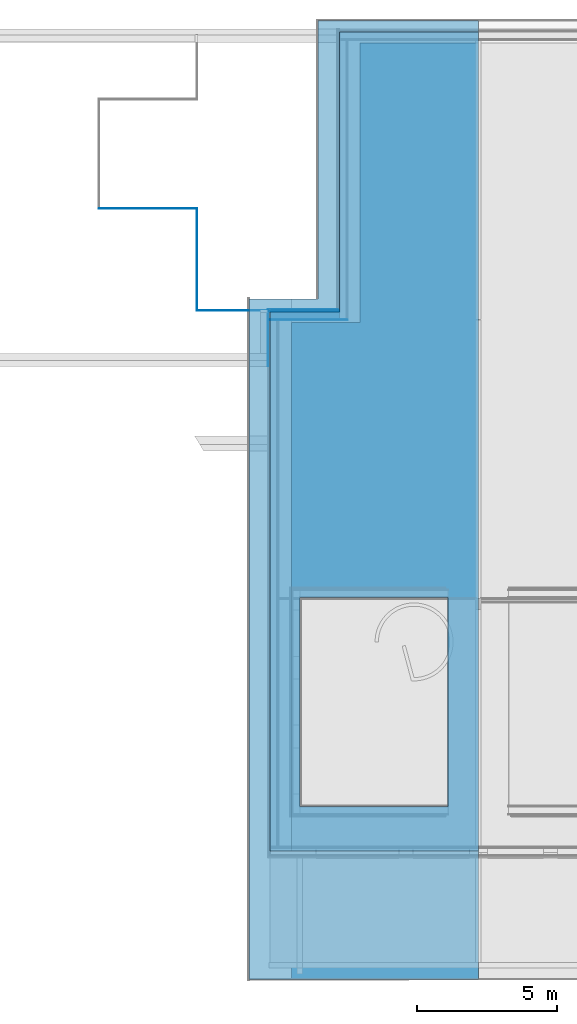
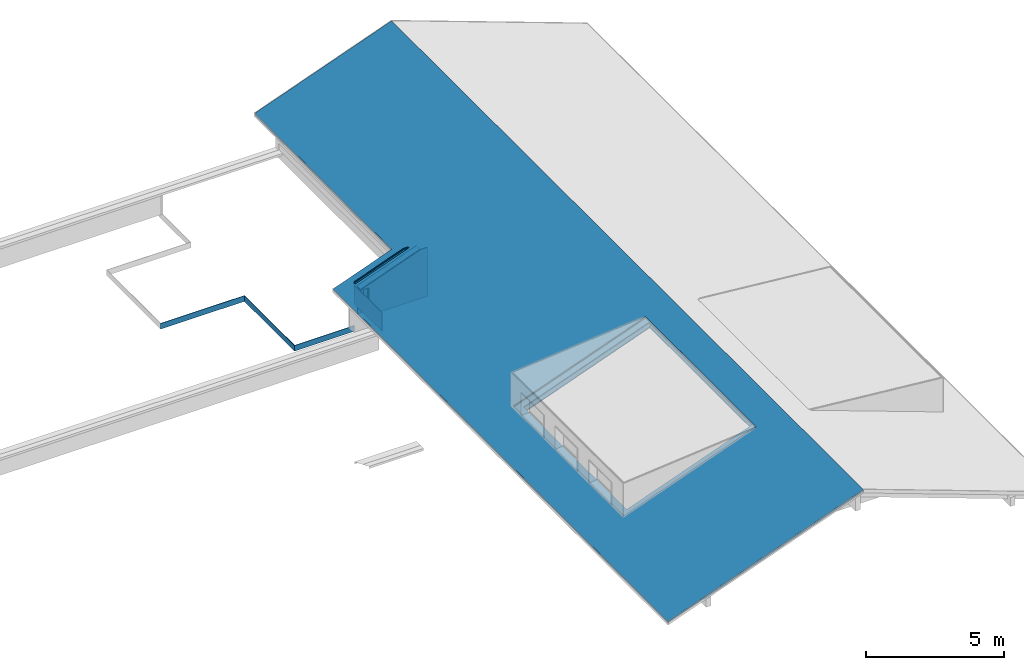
# One storey, part 6 of 12: 17 building element parts, 3 discrete accessories, 5 elements without a shape of their own.
"""IFC4 building model written with IfcOpenShell, lengths in millimetres."""

import ifcopenshell
import ifcopenshell.guid

model = None  # the IFC model being written
_history = None  # IfcOwnerHistory: only IFC2X3 demands one
_inside = {}  # id of a spatial element -> (the spatial element, [elements in it])
_under = {}  # id of a project, library or spatial element -> (it, [spatial elements below it])
_declared = {}  # id of a project -> (the project, [libraries it declares])
_typed = {}  # id of a type object -> (the type object, [elements of that type])
_made_of = {}  # id of a material, layer set ... -> (it, [elements and type objects made of it])


def new_model(schema):
    """Start an empty IFC model of exactly this schema.

    Asked for "IFC4X3", IfcOpenShell would pick the latest addendum, in which some entities
    have other attributes; the version numbers below select the first issue.
    IFC2X3 requires an IfcOwnerHistory on every rooted entity: one is made here for all.
    """
    global model, _history
    if schema == "IFC4X3":
        model = ifcopenshell.file(schema_version=(4, 3, 0, 0))
    else:
        model = ifcopenshell.file(schema=schema)
    _inside.clear()
    _under.clear()
    _declared.clear()
    _typed.clear()
    _made_of.clear()
    _history = None
    if model.schema == "IFC2X3":
        org = make("IfcOrganization", Name="unknown")
        user = make(
            "IfcPersonAndOrganization",
            ThePerson=make("IfcPerson", FamilyName="unknown"),
            TheOrganization=org,
        )
        app = make(
            "IfcApplication",
            ApplicationDeveloper=org,
            Version="unknown",
            ApplicationFullName="unknown",
            ApplicationIdentifier="unknown",
        )
        _history = make(
            "IfcOwnerHistory",
            OwningUser=user,
            OwningApplication=app,
            ChangeAction="ADDED",
            CreationDate=0,
        )
    return model


def make(cls, **values):
    """One entity of the class cls with the attributes given. An attribute that is None is left unset."""
    return model.create_entity(
        cls, **{name: value for name, value in values.items() if value is not None}
    )


def entity(cls, *values):
    """Any entity or typed value of the class cls, its attributes in the order of the schema. None: left unset."""
    e = model.create_entity(cls)
    for i, value in enumerate(values):
        if value is not None:
            e[i] = value
    return e


def rooted(cls, **values):
    """An entity with a GlobalId (a new one), such as an element, a storey or a relation."""
    return make(cls, GlobalId=ifcopenshell.guid.new(), OwnerHistory=_history, **values)


def si_unit(unit_type, name, prefix=None):
    """IfcSIUnit, for example si_unit("LENGTHUNIT", "METRE", prefix="MILLI")."""
    return make("IfcSIUnit", UnitType=unit_type, Prefix=prefix, Name=name)


def converted_unit(unit_type, name, factor, base, dimensions=None, offset=None):
    """IfcConversionBasedUnit, such as the inch: factor (a typed value) times the base unit."""
    return make(
        "IfcConversionBasedUnit"
        if offset is None
        else "IfcConversionBasedUnitWithOffset",
        ConversionOffset=offset,
        Dimensions=None
        if dimensions is None
        else entity("IfcDimensionalExponents", *dimensions),
        UnitType=unit_type,
        Name=name,
        ConversionFactor=make(
            "IfcMeasureWithUnit", ValueComponent=factor, UnitComponent=base
        ),
    )


def derived_unit(unit_type, elements):
    """IfcDerivedUnit: a product of units, each with its exponent."""
    return make(
        "IfcDerivedUnit",
        Elements=[
            make("IfcDerivedUnitElement", Unit=unit, Exponent=power)
            for unit, power in elements
        ],
        UnitType=unit_type,
    )


def assignment(units):
    """IfcUnitAssignment: the units of a project."""
    return None if units is None else make("IfcUnitAssignment", Units=units)


def point(xyz):
    """IfcCartesianPoint."""
    return None if xyz is None else make("IfcCartesianPoint", Coordinates=xyz)


def direction(xyz):
    """IfcDirection."""
    return None if xyz is None else make("IfcDirection", DirectionRatios=xyz)


def frame(location, z_axis=None, x_axis=None):
    """IfcAxis2Placement3D, a coordinate frame: its origin and axes. An axis left out is left unset."""
    return make(
        "IfcAxis2Placement3D",
        Location=point(location),
        Axis=direction(z_axis),
        RefDirection=direction(x_axis),
    )


def origin_with_axes():
    """The frame at (0, 0, 0) with the z axis (0, 0, 1) and the x axis (1, 0, 0) written out."""
    return frame((0.0, 0.0, 0.0), z_axis=(0.0, 0.0, 1.0), x_axis=(1.0, 0.0, 0.0))


def place(relative_to, where):
    """IfcLocalPlacement: puts the frame where relative to a parent placement (None: the world)."""
    return make(
        "IfcLocalPlacement", PlacementRelTo=relative_to, RelativePlacement=where
    )


def context(
    kind, dimensions, precision=None, world=None, true_north=None, identifier=None
):
    """IfcGeometricRepresentationContext, for example the 3D "Model" context."""
    return make(
        "IfcGeometricRepresentationContext",
        ContextIdentifier=identifier,
        ContextType=kind,
        CoordinateSpaceDimension=dimensions,
        Precision=precision,
        WorldCoordinateSystem=world,
        TrueNorth=true_north,
    )


def subcontext(parent, identifier, kind, view, scale=None):
    """IfcGeometricRepresentationSubContext, for example "Body" below "Model"."""
    return make(
        "IfcGeometricRepresentationSubContext",
        ContextIdentifier=identifier,
        ContextType=kind,
        ParentContext=parent,
        TargetScale=scale,
        TargetView=view,
    )


def project(units=None, contexts=None):
    """IfcProject with its units and contexts."""
    return rooted(
        "IfcProject",
        Name="project",
        RepresentationContexts=contexts,
        UnitsInContext=assignment(units),
    )


def spatial(cls, under=None, at=None, **own):
    """A site, building, storey or space (cls), placed at a placement, below another one or the project."""
    s = rooted(cls, ObjectPlacement=at, **own)
    if under is not None:
        _under.setdefault(under.id(), (under, []))[1].append(s)
    return s


def point_list(points):
    """IfcCartesianPointList2D or 3D."""
    cls = (
        "IfcCartesianPointList2D" if len(points[0]) == 2 else "IfcCartesianPointList3D"
    )
    return make(cls, CoordList=points)


def polygons(points, faces, closed=None, point_numbers=None):
    """IfcPolygonalFaceSet: a face is its outer loop, then its inner loops; points numbered from 1."""
    made = []
    for loops in faces:
        if len(loops) == 1:
            made.append(make("IfcIndexedPolygonalFace", CoordIndex=loops[0]))
        else:
            made.append(
                make(
                    "IfcIndexedPolygonalFaceWithVoids",
                    CoordIndex=loops[0],
                    InnerCoordIndices=loops[1:],
                )
            )
    return make(
        "IfcPolygonalFaceSet",
        Coordinates=point_list(points),
        Closed=closed,
        Faces=made,
        PnIndex=point_numbers,
    )


def shape(context_of_items, identifier, shape_type, items):
    """IfcShapeRepresentation: the items that make up one representation, for example the "Body"."""
    return make(
        "IfcShapeRepresentation",
        ContextOfItems=context_of_items,
        RepresentationIdentifier=identifier,
        RepresentationType=shape_type,
        Items=items,
    )


def material(Name=None, Category=None):
    """IfcMaterial."""
    return make("IfcMaterial", Name=Name, Category=Category)


def made_of(thing, what):
    """Note that an element or type object is made of a material, layer set ...; save() writes the relation."""
    if what is not None:
        _made_of.setdefault(what.id(), (what, []))[1].append(thing)
    return thing


def type_object(cls, material=None, **own):
    """A type object (cls), such as IfcWallType, which elements share."""
    return made_of(rooted(cls, **own), material)


def element(
    cls,
    number,
    at=None,
    inside=None,
    cuts=None,
    type_object=None,
    material=None,
    context=None,
    identifier="Body",
    shape_type=None,
    held_by="IfcProductDefinitionShape",
    body=None,
    shapes=None,
    **own,
):
    """One element of the class cls, such as IfcWall. Its Tag is "e" and its number.

    at: its placement. inside: the storey or other place that contains it. cuts: it is an
    opening in that element (IfcRelVoidsElement). A single representation is given by context,
    identifier, shape_type and body (its items); several are given by shapes. held_by: the class
    of the entity that holds the representations. save() writes the other relations.
    """
    e = rooted(cls, Tag="e%d" % number, ObjectPlacement=at, **own)
    if body is not None:
        shapes = [shape(context, identifier, shape_type, body)]
    if shapes is not None:
        e.Representation = make(held_by, Representations=shapes)
    if inside is not None:
        _inside.setdefault(inside.id(), (inside, []))[1].append(e)
    if cuts is not None:
        rooted(
            "IfcRelVoidsElement", RelatingBuildingElement=cuts, RelatedOpeningElement=e
        )
    if type_object is not None:
        _typed.setdefault(type_object.id(), (type_object, []))[1].append(e)
    return made_of(e, material)


def aggregate(whole, parts):
    """IfcRelAggregates: a whole, such as a stair, and the parts it consists of."""
    return rooted("IfcRelAggregates", RelatingObject=whole, RelatedObjects=parts)


def save(model, path):
    """Write the relations noted so far, then the file.

    IfcRelAggregates (storeys below a building ...), IfcRelContainedInSpatialStructure (elements
    in a storey), IfcRelDefinesByType, IfcRelAssociatesMaterial and IfcRelDeclares: one each for
    every whole, place, type object, material and project.
    """
    for whole, parts in _under.values():
        aggregate(whole, parts)
    for where, things in _inside.values():
        rooted(
            "IfcRelContainedInSpatialStructure",
            RelatedElements=things,
            RelatingStructure=where,
        )
    for kind, things in _typed.values():
        rooted("IfcRelDefinesByType", RelatedObjects=things, RelatingType=kind)
    for what, things in _made_of.values():
        rooted("IfcRelAssociatesMaterial", RelatedObjects=things, RelatingMaterial=what)
    for by, libraries in _declared.values():
        rooted("IfcRelDeclares", RelatingContext=by, RelatedDefinitions=libraries)
    model.write(path)


model = new_model("IFC4")

# Units and contexts
model_context = context("Model", 3, precision=0.01, world=origin_with_axes(), true_north=direction((0.0, 1.0)))
body_context = subcontext(model_context, "Body", "Model", "MODEL_VIEW")
ifc_project = project(units=[si_unit("LENGTHUNIT", "METRE", prefix="MILLI"), si_unit("AREAUNIT", "SQUARE_METRE"), si_unit("VOLUMEUNIT", "CUBIC_METRE"), converted_unit("PLANEANGLEUNIT", "DEGREE", entity("IfcPlaneAngleMeasure", 0.0174532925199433), si_unit("PLANEANGLEUNIT", "RADIAN"), dimensions=[0, 0, 0, 0, 0, 0, 0]), converted_unit("TIMEUNIT", "Year", entity("IfcTimeMeasure", 31557600.0), si_unit("TIMEUNIT", "SECOND"), dimensions=[0, 0, 1, 0, 0, 0, 0]), si_unit("MASSUNIT", "GRAM", prefix="KILO"), si_unit("THERMODYNAMICTEMPERATUREUNIT", "DEGREE_CELSIUS"), si_unit("LUMINOUSINTENSITYUNIT", "LUMEN"), si_unit("ENERGYUNIT", "JOULE", prefix="MEGA"), derived_unit("THERMALCONDUCTANCEUNIT", [(si_unit("POWERUNIT", "WATT"), 1), (si_unit("LENGTHUNIT", "METRE"), -1), (si_unit("THERMODYNAMICTEMPERATUREUNIT", "KELVIN"), -1)]), derived_unit("SPECIFICHEATCAPACITYUNIT", [(si_unit("ENERGYUNIT", "JOULE"), 1), (si_unit("MASSUNIT", "GRAM", prefix="KILO"), -1), (si_unit("THERMODYNAMICTEMPERATUREUNIT", "KELVIN"), -1)]), derived_unit("MASSDENSITYUNIT", [(si_unit("MASSUNIT", "GRAM", prefix="KILO"), 1), (si_unit("VOLUMEUNIT", "CUBIC_METRE"), -1)])], contexts=[model_context])

# Site, building, storey
site_placement = place(None, origin_with_axes())
site = spatial("IfcSite", under=ifc_project, at=site_placement, Name="Gelände", CompositionType="ELEMENT")
building_placement = place(site_placement, origin_with_axes())
building = spatial("IfcBuilding", under=site, at=building_placement, Name="Gebäude", CompositionType="ELEMENT")
storey_placement = place(building_placement, frame((0.0, 0.0, 11600.0), z_axis=(0.0, 0.0, 1.0), x_axis=(1.0, 0.0, 0.0)))
storey = spatial("IfcBuildingStorey", under=building, at=storey_placement, Name="Dachaufsicht", CompositionType="ELEMENT", Elevation=11600.0)

# Discrete accessories
ifc_material_1 = material(Name="Bewehrung")
discrete_accessory_type = type_object("IfcDiscreteAccessoryType", Name="Bewehrung 20 x 250", PredefinedType="NOTDEFINED")
discrete_accessory_1_placement = place(storey_placement, frame((15428.99744477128, 31572.59728131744, -5.198845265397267e-05), z_axis=(0.0, 0.0, 1.0), x_axis=(-1.0, 0.0, 0.0)))
element("IfcDiscreteAccessory", 1, at=discrete_accessory_1_placement, inside=storey, type_object=discrete_accessory_type, material=ifc_material_1, Name="Unterzug-029", PredefinedType="NOTDEFINED", context=body_context, shape_type="Tessellation", body=[
    polygons([(0.0, 3625.000000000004, -250.0), (19.99999999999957, 3645.000000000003, -250.0), (19.99999999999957, 20.00000000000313, -250.0), (0.0, 0.0, -250.0), (0.0, 3625.000000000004, 0.0), (19.99999999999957, 3645.000000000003, 0.0), (19.99999999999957, 20.00000000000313, 0.0), (0.0, 0.0, 0.0)], [[[1, 2, 3, 4]], [[1, 5, 6, 2]], [[2, 6, 7, 3]], [[4, 3, 7, 8]], [[5, 1, 4, 8]], [[6, 5, 8, 7]]], closed=True),
])
discrete_accessory_2_placement = place(storey_placement, frame((15428.99744477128, 27947.59728131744, -5.198845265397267e-05), z_axis=(0.0, 0.0, 1.0), x_axis=(0.0, -1.0, 0.0)))
element("IfcDiscreteAccessory", 2, at=discrete_accessory_2_placement, inside=storey, type_object=discrete_accessory_type, material=ifc_material_1, Name="Unterzug-030", PredefinedType="NOTDEFINED", context=body_context, shape_type="Tessellation", body=[
    polygons([(0.0, 2490.999999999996, -250.0), (19.99999999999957, 2490.999999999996, -250.0), (19.99999999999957, -20.00000000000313, -250.0), (0.0, 0.0, -250.0), (0.0, 2490.999999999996, 0.0), (19.99999999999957, 2490.999999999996, 0.0), (19.99999999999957, -20.00000000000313, 0.0), (0.0, 0.0, 0.0)], [[[1, 2, 3, 4]], [[1, 5, 6, 2]], [[2, 6, 7, 3]], [[4, 3, 7, 8]], [[5, 1, 4, 8]], [[6, 5, 8, 7]]], closed=True),
])
discrete_accessory_3_placement = place(storey_placement, frame((15428.99744477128, 31572.59728131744, -5.198845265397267e-05), z_axis=(0.0, 0.0, 1.0), x_axis=(0.0, 1.0, 0.0)))
element("IfcDiscreteAccessory", 3, at=discrete_accessory_3_placement, inside=storey, type_object=discrete_accessory_type, material=ifc_material_1, Name="Unterzug-029", PredefinedType="NOTDEFINED", context=body_context, shape_type="Tessellation", body=[
    polygons([(0.0, 3500.00000000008, 0.0), (-19.99999999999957, 3520.00000000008, 0.0), (-19.99999999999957, 20.00000000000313, 0.0), (0.0, 0.0, 0.0), (0.0, 3500.00000000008, -250.0), (-19.99999999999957, 3520.00000000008, -250.0), (-19.99999999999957, 20.00000000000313, -250.0), (0.0, 0.0, -250.0)], [[[1, 2, 3, 4]], [[1, 5, 6, 2]], [[2, 6, 7, 3]], [[4, 3, 7, 8]], [[5, 1, 4, 8]], [[6, 5, 8, 7]]], closed=True),
])

# Wall, building element parts
wall_type = type_object("IfcWallType", Name="Aussenwand Typ 01 318", PredefinedType="NOTDEFINED")
wall_placement = place(storey_placement, frame((17999.99744477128, 27907.59728131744, 500.0), z_axis=(0.0, 0.0, 1.0), x_axis=(1.0, 0.0, 0.0)))
wall = element("IfcWall", 4, at=wall_placement, inside=storey, type_object=wall_type, Name="Wand-014", PredefinedType="NOTDEFINED")
ifc_material_2 = material(Name="Ständer Konstruktion gedämmt")
building_element_part_1_placement = place(wall_placement, origin_with_axes())
building_element_part_1 = element("IfcBuildingElementPart", 5, at=building_element_part_1_placement, material=ifc_material_2, Name="Ständer Konstruktion gedämmt", PredefinedType="NOTDEFINED", context=body_context, shape_type="Tessellation", body=[
    polygons([(277.9999999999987, -277.9999957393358, 1235.349685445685), (0.0, -277.9999975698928, 1235.349685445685), (0.0, -18.00000154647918, 1235.349685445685), (277.9999999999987, -18.000002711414, 1235.349685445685), (277.9999999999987, -277.9999999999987, 0.0), (2487.000000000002, -277.9999999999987, 0.0), (2487.000000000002, -277.9999994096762, 2165.91752631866), (0.0, -277.9999975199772, 1260.723553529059), (0.0, -18.000001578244, 1260.723553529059), (2487.000000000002, -18.00000037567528, 2165.91752631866), (2487.000000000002, -18.00000000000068, 0.0), (277.9999999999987, -18.00000000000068, 0.0)], [[[1, 2, 3, 4]], [[2, 1, 5, 6, 7, 8]], [[2, 8, 9, 3]], [[3, 9, 10, 11, 12, 4]], [[5, 1, 4, 12]], [[12, 11, 6, 5]], [[11, 10, 7, 6]], [[9, 8, 7, 10]]], closed=True),
])
ifc_material_3 = material(Name="Grobspanplatte-OSB")
building_element_part_2_placement = place(wall_placement, origin_with_axes())
building_element_part_2 = element("IfcBuildingElementPart", 6, at=building_element_part_2_placement, material=ifc_material_3, Name="Grobspanplatte-OSB", PredefinedType="NOTDEFINED", context=body_context, shape_type="Tessellation", body=[
    polygons([(18.00000000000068, 0.0, 1235.349685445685), (0.0, 0.0, 1235.349685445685), (0.0, 1.484927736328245e-07, 1260.723553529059), (2469.000000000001, 7.861018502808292e-07, 2159.366061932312), (2469.000000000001, 0.0, 0.0), (18.00000000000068, 0.0, 0.0), (18.00000000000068, -18.000002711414, 1235.349685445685), (0.0, -18.00000154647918, 1235.349685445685), (0.0, -18.000001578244, 1260.723553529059), (2469.000000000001, -18.00000039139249, 2159.366061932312), (2469.000000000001, -18.00000000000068, 0.0), (18.00000000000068, -18.00000000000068, 0.0)], [[[1, 2, 3, 4, 5, 6]], [[2, 1, 7, 8]], [[2, 8, 9, 3]], [[3, 9, 10, 4]], [[5, 4, 10, 11]], [[12, 6, 5, 11]], [[1, 6, 12, 7]], [[7, 12, 11, 10, 9, 8]]], closed=True),
])
ifc_material_4 = material(Name="Gipsfaserplatte GFP")
building_element_part_3_placement = place(wall_placement, origin_with_axes())
building_element_part_3 = element("IfcBuildingElementPart", 7, at=building_element_part_3_placement, material=ifc_material_4, Name="Gipsfaserplatte GFP", PredefinedType="NOTDEFINED", context=body_context, shape_type="Tessellation", body=[
    polygons([(307.9999999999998, -292.9999999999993, 1235.349685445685), (0.0, -292.9999999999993, 1235.349685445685), (0.0, -292.9999999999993, 1260.723553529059), (2487.000000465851, -292.9999999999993, 2165.91752631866), (2762.0, -292.9999999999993, 2165.91752631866), (2762.0, -292.9999999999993, 0.0), (307.9999999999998, -292.9999999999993, 0.0), (307.9999999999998, -307.9999954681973, 1235.349685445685), (0.0, -307.9999974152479, 1235.349685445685), (0.0, -307.9999973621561, 1260.723553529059), (2487.000000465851, -307.9999993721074, 2165.91752631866), (2762.0, -307.9999998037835, 2165.91752631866), (2762.0, -307.9999999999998, 0.0), (307.9999999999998, -307.9999999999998, 0.0)], [[[1, 2, 3, 4, 5, 6, 7]], [[1, 8, 9, 2]], [[2, 9, 10, 3]], [[3, 10, 11, 4]], [[5, 4, 11, 12]], [[13, 6, 5, 12]], [[14, 7, 6, 13]], [[1, 7, 14, 8]], [[8, 14, 13, 12, 11, 10, 9]]], closed=True),
])
ifc_material_5 = material(Name="Verputz Innen")
building_element_part_4_placement = place(wall_placement, origin_with_axes())
building_element_part_4 = element("IfcBuildingElementPart", 8, at=building_element_part_4_placement, material=ifc_material_5, Name="Verputz Innen", PredefinedType="NOTDEFINED", context=body_context, shape_type="Tessellation", body=[
    polygons([(318.0000000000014, -307.9999954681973, 1235.349685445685), (0.0, -307.9999974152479, 1235.349685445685), (0.0, -307.9999973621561, 1260.723553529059), (2487.000000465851, -307.999999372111, 2165.91752631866), (2777.000000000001, -307.9999998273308, 2165.91752631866), (2777.000000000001, -307.9999999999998, 0.0), (318.0000000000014, -307.9999999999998, 0.0), (318.0000000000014, -318.0000000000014, 1235.349685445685), (0.0, -317.9999999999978, 1235.349685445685), (0.0, -317.9999999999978, 1260.723553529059), (2487.000000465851, -318.0000000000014, 2165.91752631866), (2777.000000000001, -318.0000000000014, 2165.91752631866), (2777.000000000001, -318.0000000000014, 0.0), (318.0000000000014, -317.9999999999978, 0.0)], [[[1, 2, 3, 4, 5, 6, 7]], [[1, 8, 9, 2]], [[2, 9, 10, 3]], [[3, 10, 11, 4]], [[5, 4, 11, 12]], [[13, 6, 5, 12]], [[14, 7, 6, 13]], [[1, 7, 14, 8]], [[8, 14, 13, 12, 11, 10, 9]]], closed=True),
])
building_element_part_5_placement = place(wall_placement, origin_with_axes())
building_element_part_5 = element("IfcBuildingElementPart", 9, at=building_element_part_5_placement, material=ifc_material_4, Name="Gipsfaserplatte GFP", PredefinedType="NOTDEFINED", context=body_context, shape_type="Tessellation", body=[
    polygons([(292.9999999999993, -277.9999957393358, 1235.349685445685), (0.0, -277.9999975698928, 1235.349685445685), (0.0, -277.9999975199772, 1260.723553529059), (2487.000000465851, -277.9999994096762, 2165.91752631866), (2747.0, -277.9999997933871, 2165.91752631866), (2747.0, -277.9999999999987, 0.0), (292.9999999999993, -277.9999999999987, 0.0), (292.9999999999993, -292.9999999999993, 1235.349685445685), (0.0, -292.9999999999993, 1235.349685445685), (0.0, -292.9999999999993, 1260.723553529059), (2487.000000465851, -292.9999999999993, 2165.91752631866), (2747.0, -292.9999999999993, 2165.91752631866), (2747.0, -292.9999999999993, 0.0), (292.9999999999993, -292.9999999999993, 0.0)], [[[1, 2, 3, 4, 5, 6, 7]], [[1, 8, 9, 2]], [[2, 9, 10, 3]], [[3, 10, 11, 4]], [[5, 4, 11, 12]], [[13, 6, 5, 12]], [[14, 7, 6, 13]], [[1, 7, 14, 8]], [[8, 14, 13, 12, 11, 10, 9]]], closed=True),
])
aggregate(wall, [building_element_part_1, building_element_part_2, building_element_part_3, building_element_part_4, building_element_part_5])

# Curtain wall, building element parts
curtain_wall_type = type_object("IfcCurtainWallType", Name="Fassade Typ 02 - Vertikale Schalung 71", PredefinedType="NOTDEFINED")
curtain_wall_1_placement = place(storey_placement, frame((20397.99744477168, 27978.59728131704, 930.9999999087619), z_axis=(0.0, 0.0, 1.0), x_axis=(-1.0, 0.0, 0.0)))
curtain_wall_1 = element("IfcCurtainWall", 10, at=curtain_wall_1_placement, inside=storey, type_object=curtain_wall_type, Name="Wand-014", PredefinedType="NOTDEFINED")
ifc_material_6 = material(Name="Lattenrost vertikal")
building_element_part_6_placement = place(curtain_wall_1_placement, origin_with_axes())
building_element_part_6 = element("IfcBuildingElementPart", 11, at=building_element_part_6_placement, material=ifc_material_6, Name="Lattenrost vertikal", PredefinedType="NOTDEFINED", context=body_context, shape_type="Tessellation", body=[
    polygons([(2469.000000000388, 45.99999835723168, 978.3302026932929), (1628.2459032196, 45.99999709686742, 1284.33966825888), (1628.2459032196, 45.99999711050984, 1290.891132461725), (426.293412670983, 45.99999934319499, 1728.36606202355), (-71.00000000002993, 45.9999998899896, 1728.36606202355), (-71.00000000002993, 45.99999999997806, 0.0), (2398.000000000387, 46.00000000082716, 0.0), (2398.000000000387, 45.99999709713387, 822.7169542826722), (2469.000000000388, 45.99999861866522, 822.7169542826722), (2469.000000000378, 71.00000314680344, 978.3302026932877), (1628.245903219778, 71.00000314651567, 1284.339668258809), (1628.245903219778, 71.00000313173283, 1290.891132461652), (426.2934126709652, 71.00000071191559, 1728.36606202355), (-71.00000000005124, 71.00000011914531, 1728.36606202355), (-71.00000000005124, 70.99999999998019, 0.0), (2398.000000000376, 71.00000000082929, 0.0), (2398.000000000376, 71.00000314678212, 822.7169542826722), (2469.000000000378, 71.00000314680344, 822.7169542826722)], [[[1, 2, 3, 4, 5, 6, 7, 8, 9]], [[2, 1, 10, 11]], [[3, 2, 11, 12]], [[3, 12, 13, 4]], [[13, 14, 5, 4]], [[6, 5, 14, 15]], [[7, 6, 15, 16]], [[7, 16, 17, 8]], [[17, 18, 9, 8]], [[10, 1, 9, 18]], [[11, 10, 18, 17, 16, 15, 14, 13, 12]]], closed=True),
])
ifc_material_7 = material(Name="Falzschalung vertikal")
building_element_part_7_placement = place(curtain_wall_1_placement, origin_with_axes())
building_element_part_7 = element("IfcBuildingElementPart", 12, at=building_element_part_7_placement, material=ifc_material_7, Name="Falzschalung vertikal", PredefinedType="NOTDEFINED", context=body_context, shape_type="Tessellation", body=[
    polygons([(2469.000000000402, 1.456612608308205e-10, 978.3302026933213), (1628.24590321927, 5.613287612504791e-10, 1284.339668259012), (1628.24590321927, 5.613287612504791e-10, 1290.891132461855), (426.2934126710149, 1.49213974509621e-10, 1728.36606202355), (-21.0000000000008, 0.0, 1728.36606202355), (-21.0000000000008, 0.0, 321.0000000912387), (2448.000000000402, 0.0, 321.0000000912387), (2448.000000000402, 0.0, 822.7169542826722), (2469.000000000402, 0.0, 822.7169542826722), (2469.000000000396, 21.00000257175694, 978.3302026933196), (1628.245903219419, 21.00000177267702, 1284.339668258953), (1628.245903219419, 21.00000179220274, 1290.891132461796), (426.2934126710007, 21.00000102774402, 1728.36606202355), (-21.00000000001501, 21.00000025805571, 1728.36606202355), (-21.00000000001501, 21.00000004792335, 321.0000000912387), (2448.000000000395, 21.00000177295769, 321.0000000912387), (2448.000000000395, 21.00000454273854, 822.7169542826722), (2469.000000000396, 21.00000216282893, 822.7169542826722)], [[[1, 2, 3, 4, 5, 6, 7, 8, 9]], [[2, 1, 10, 11]], [[3, 2, 11, 12]], [[3, 12, 13, 4]], [[13, 14, 5, 4]], [[6, 5, 14, 15]], [[6, 15, 16, 7]], [[16, 17, 8, 7]], [[9, 8, 17, 18]], [[10, 1, 9, 18]], [[11, 10, 18, 17, 16, 15, 14, 13, 12]]], closed=True),
])
ifc_material_8 = material(Name="Lattenrost horizontal")
building_element_part_8_placement = place(curtain_wall_1_placement, origin_with_axes())
building_element_part_8 = element("IfcBuildingElementPart", 13, at=building_element_part_8_placement, material=ifc_material_8, Name="Lattenrost horizontal", PredefinedType="NOTDEFINED", context=body_context, shape_type="Tessellation", body=[
    polygons([(2469.000000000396, 21.00000257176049, 978.330202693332), (1628.245903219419, 21.00000454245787, 1284.339668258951), (1628.245903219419, 21.00000452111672, 1290.891132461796), (426.2934126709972, 21.00000102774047, 1728.36606202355), (-46.00000000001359, 21.0000002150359, 1728.36606202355), (-46.00000000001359, 20.99999999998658, 0.0), (-30.99999999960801, 20.99999999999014, 0.0), (-30.99999999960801, 21.00000454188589, 21.00000009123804), (2423.000000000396, 21.00000011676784, 21.00000009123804), (2423.000000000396, 21.00000454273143, 822.7169542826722), (2469.000000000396, 21.00000216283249, 822.7169542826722), (2469.000000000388, 45.99999835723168, 978.3302026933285), (1628.2459032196, 45.99999861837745, 1284.33966825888), (1628.2459032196, 45.99999860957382, 1290.891132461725), (426.293412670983, 45.99999934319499, 1728.36606202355), (-46.0000000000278, 45.9999998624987, 1728.36606202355), (-46.0000000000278, 45.99999999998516, 0.0), (2423.000000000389, 46.00000000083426, 0.0), (2423.000000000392, 31.00000000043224, 0.0), (-30.99999999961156, 30.99999999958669, 0.0), (-30.99999999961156, 30.99999999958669, 21.00000009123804), (2423.000000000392, 31.00000000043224, 21.00000009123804), (2423.000000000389, 45.99999709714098, 822.7169542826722), (2469.000000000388, 45.99999861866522, 822.7169542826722)], [[[1, 2, 3, 4, 5, 6, 7, 8, 9, 10, 11]], [[2, 1, 12, 13]], [[3, 2, 13, 14]], [[3, 14, 15, 4]], [[15, 16, 5, 4]], [[17, 6, 5, 16]], [[17, 18, 19, 20, 7, 6]], [[8, 7, 20, 21]], [[8, 21, 22, 9]], [[23, 10, 9, 22, 19, 18]], [[10, 23, 24, 11]], [[12, 1, 11, 24]], [[13, 12, 24, 23, 18, 17, 16, 15, 14]], [[21, 20, 19, 22]]], closed=True),
])
aggregate(curtain_wall_1, [building_element_part_6, building_element_part_7, building_element_part_8])

# Roof, building element parts
roof_type = type_object("IfcRoofType", Name="Steildach Typ 01 255", PredefinedType="NOTDEFINED")
roof_placement = place(storey_placement, frame((17999.99744431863, 37876.59728093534, 1521.283555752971), z_axis=(0.0, 0.0, 1.0), x_axis=(0.0, -1.0, 0.0)))
roof = element("IfcRoof", 14, at=roof_placement, inside=storey, type_object=roof_type, Name="Dach-011", PredefinedType="NOTDEFINED")
ifc_material_9 = material(Name="Dreischichtplatte-DSP")
building_element_part_9_placement = place(roof_placement, origin_with_axes())
building_element_part_9 = element("IfcBuildingElementPart", 15, at=building_element_part_9_placement, material=ifc_material_9, Name="Dreischichtplatte-DSP", PredefinedType="NOTDEFINED", context=body_context, shape_type="Tessellation", body=[
    polygons([(10368.99999325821, 769.7540975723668, 519.6075779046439), (10368.99999306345, 769.7540975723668, 551.5329103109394), (10368.99999306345, 3220.754097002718, 1443.623954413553), (10368.99999325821, 3220.754097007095, 1411.698622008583), (29180.00000042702, 769.7540968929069, 551.5329102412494), (29180.00000047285, 769.7540968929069, 519.60757778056), (29180.00000042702, 7428.999999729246, 2975.300201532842), (417.9999995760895, 7429.000000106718, 2975.3002016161), (417.9999995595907, 3220.754097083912, 1443.623954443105), (27608.92716840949, 6357.900825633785, 2585.451984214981), (27608.92716840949, 1086.000000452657, 666.6370058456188), (20156.89999961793, 1086.000000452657, 666.6370058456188), (20156.89999961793, 6357.900825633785, 2585.451984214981), (417.999999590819, 3220.754097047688, 1411.698622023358), (417.9999995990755, 7429.000000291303, 2943.374869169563), (29180.00000047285, 7428.99999969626, 2943.374869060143), (27608.92716837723, 6357.90082559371, 2553.526651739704), (20156.8999996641, 6357.90082559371, 2553.526651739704), (20156.8999996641, 1086.000000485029, 634.7116733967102), (27608.92716837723, 1086.000000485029, 634.7116733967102)], [[[1, 2, 3, 4]], [[5, 2, 1, 6]], [[2, 5, 7, 8, 9, 3], [10, 11, 12, 13]], [[4, 3, 9, 14]], [[6, 1, 4, 14, 15, 16], [17, 18, 19, 20]], [[5, 6, 16, 7]], [[16, 15, 8, 7]], [[14, 9, 8, 15]], [[20, 11, 10, 17]], [[19, 12, 11, 20]], [[18, 13, 12, 19]], [[17, 10, 13, 18]]], closed=True),
])
ifc_material_10 = material(Name="Balken Konstruktion gedämmt")
building_element_part_10_placement = place(roof_placement, origin_with_axes())
building_element_part_10 = element("IfcBuildingElementPart", 16, at=building_element_part_10_placement, material=ifc_material_10, Name="Balken Konstruktion gedämmt", PredefinedType="NOTDEFINED", context=body_context, shape_type="Tessellation", body=[
    polygons([(9986.99999968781, 18.00000049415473, 214.0661296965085), (9986.99999968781, 769.7540975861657, 487.6822445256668), (9986.99999968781, 2487.000000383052, 1112.708638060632), (9986.999999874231, 2487.000000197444, 942.4401947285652), (9986.999999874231, 18.000000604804, 43.79768647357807), (29180.00000051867, 18.00000049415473, 214.0661296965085), (29180.00000051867, 769.7540968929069, 487.6822442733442), (10368.99999345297, 769.7540975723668, 487.682244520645), (10368.99999345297, 3220.754097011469, 1379.773288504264), (417.9999996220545, 3220.754097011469, 1379.773288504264), (417.9999996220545, 7429.000000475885, 2911.449535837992), (17.99999926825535, 7429.000000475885, 2911.449535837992), (17.99999956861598, 2487.000000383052, 1112.708638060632), (17.99999943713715, 2487.000000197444, 942.4401947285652), (17.99999938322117, 7429.000000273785, 2741.181092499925), (29180.00000076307, 7428.999999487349, 2741.181092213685), (29180.00000076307, 18.000000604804, 43.79768647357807), (27608.92716817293, 6357.900825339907, 2351.332874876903), (20156.89999995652, 6357.900825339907, 2351.332874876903), (20156.89999995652, 1086.00000069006, 432.5178967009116), (27608.92716817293, 1086.00000069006, 432.5178967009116), (29180.00000047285, 7428.99999969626, 2943.374869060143), (29180.00000047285, 769.7540968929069, 519.60757778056), (10368.99999325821, 769.7540975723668, 519.6075779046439), (10368.99999325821, 3220.754097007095, 1411.698622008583), (417.999999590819, 3220.754097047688, 1411.698622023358), (417.9999995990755, 7429.000000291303, 2943.374869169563), (27608.92716837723, 6357.90082559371, 2553.526651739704), (20156.8999996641, 6357.90082559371, 2553.526651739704), (20156.8999996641, 1086.000000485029, 634.7116733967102), (27608.92716837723, 1086.000000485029, 634.7116733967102)], [[[1, 2, 3, 4, 5]], [[2, 1, 6, 7, 8, 9, 10, 11, 12, 13, 3]], [[4, 3, 13, 14]], [[4, 14, 15, 16, 17, 5], [18, 19, 20, 21]], [[6, 1, 5, 17]], [[7, 6, 17, 16, 22, 23]], [[23, 24, 8, 7]], [[8, 24, 25, 9]], [[9, 25, 26, 10]], [[10, 26, 27, 11]], [[12, 11, 27, 22, 16, 15]], [[14, 13, 12, 15]], [[18, 28, 29, 19]], [[19, 29, 30, 20]], [[20, 30, 31, 21]], [[21, 31, 28, 18]], [[24, 23, 22, 27, 26, 25], [28, 31, 30, 29]]], closed=True),
])
ifc_material_11 = material(Name="Gipskartonplatte GKP")
building_element_part_11_placement = place(roof_placement, origin_with_axes())
building_element_part_11 = element("IfcBuildingElementPart", 17, at=building_element_part_11_placement, material=ifc_material_11, Name="Gipskartonplatte GKP", PredefinedType="NOTDEFINED", context=body_context, shape_type="Tessellation", body=[
    polygons([(17.99999939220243, 7429.000000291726, 2727.878870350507), (17.99999938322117, 7429.000000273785, 2741.181092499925), (29180.00000076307, 7428.999999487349, 2741.181092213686), (29180.00000078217, 7428.999999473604, 2727.878870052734), (17.9999994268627, 2487.000000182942, 929.1379725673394), (17.99999943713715, 2487.000000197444, 942.4401947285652), (29180.00000076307, 18.000000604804, 43.79768647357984), (9986.999999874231, 2487.000000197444, 942.4401947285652), (9986.999999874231, 18.000000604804, 43.79768647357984), (27608.92716817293, 6357.900825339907, 2351.332874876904), (27608.92716817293, 1086.00000069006, 432.5178967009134), (20156.89999995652, 1086.00000069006, 432.5178967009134), (20156.89999995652, 6357.900825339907, 2351.332874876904), (29180.00000078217, 18.00000061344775, 30.49546432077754), (9986.999999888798, 2487.000000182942, 929.1379725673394), (9986.999999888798, 18.00000061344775, 30.49546432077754), (27608.92716815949, 6357.90082532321, 2338.030652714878), (20156.89999997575, 6357.90082532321, 2338.030652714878), (20156.89999997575, 1086.00000070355, 419.215674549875), (27608.92716815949, 1086.00000070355, 419.215674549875)], [[[1, 2, 3, 4]], [[5, 6, 2, 1]], [[7, 3, 2, 6, 8, 9], [10, 11, 12, 13]], [[4, 3, 7, 14]], [[15, 5, 1, 4, 14, 16], [17, 18, 19, 20]], [[15, 8, 6, 5]], [[16, 9, 8, 15]], [[14, 7, 9, 16]], [[20, 11, 10, 17]], [[19, 12, 11, 20]], [[18, 13, 12, 19]], [[17, 10, 13, 18]]], closed=True),
])
building_element_part_12_placement = place(roof_placement, origin_with_axes())
building_element_part_12 = element("IfcBuildingElementPart", 18, at=building_element_part_12_placement, material=ifc_material_11, Name="Gipskartonplatte GKP", PredefinedType="NOTDEFINED", context=body_context, shape_type="Tessellation", body=[
    polygons([(17.99999940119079, 7429.000000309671, 2714.576648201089), (17.99999939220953, 7429.000000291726, 2727.878870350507), (29180.00000078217, 7428.999999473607, 2727.878870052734), (29180.00000080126, 7428.999999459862, 2714.576647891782), (17.99999941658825, 2487.00000016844, 915.8357504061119), (17.9999994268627, 2487.000000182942, 929.1379725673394), (29180.00000078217, 18.00000061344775, 30.49546432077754), (9986.999999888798, 2487.000000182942, 929.1379725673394), (9986.999999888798, 18.00000061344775, 30.49546432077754), (27608.92716815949, 6357.90082532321, 2338.030652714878), (27608.92716815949, 1086.00000070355, 419.2156745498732), (20156.89999997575, 1086.00000070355, 419.2156745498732), (20156.89999997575, 6357.90082532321, 2338.030652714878), (29180.00000080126, 18.00000062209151, 17.19324216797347), (9986.99999990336, 2487.00000016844, 915.8357504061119), (9986.99999990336, 18.00000062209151, 17.19324216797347), (27608.92716814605, 6357.900825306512, 2324.728430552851), (20156.89999999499, 6357.900825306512, 2324.728430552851), (20156.89999999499, 1086.000000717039, 405.9134523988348), (27608.92716814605, 1086.000000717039, 405.9134523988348)], [[[1, 2, 3, 4]], [[5, 6, 2, 1]], [[7, 3, 2, 6, 8, 9], [10, 11, 12, 13]], [[4, 3, 7, 14]], [[15, 5, 1, 4, 14, 16], [17, 18, 19, 20]], [[15, 8, 6, 5]], [[16, 9, 8, 15]], [[14, 7, 9, 16]], [[20, 11, 10, 17]], [[19, 12, 11, 20]], [[18, 13, 12, 19]], [[17, 10, 13, 18]]], closed=True),
])
ifc_material_12 = material(Name="Kalkzementputz Aussen")
building_element_part_13_placement = place(roof_placement, origin_with_axes())
building_element_part_13 = element("IfcBuildingElementPart", 19, at=building_element_part_13_placement, material=ifc_material_12, Name="Kalkzementputz Aussen", PredefinedType="NOTDEFINED", context=body_context, shape_type="Tessellation", body=[
    polygons([(17.99999940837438, 7429.000000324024, 2703.93487087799), (17.99999940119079, 7429.000000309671, 2714.576648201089), (29180.00000080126, 7428.999999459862, 2714.576647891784), (29180.00000081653, 7428.999999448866, 2703.934870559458), (17.99999940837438, 2487.00000015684, 905.1939730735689), (17.99999941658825, 2487.00000016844, 915.8357504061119), (29180.00000080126, 18.00000062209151, 17.19324216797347), (9986.99999990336, 2487.00000016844, 915.8357504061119), (9986.99999990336, 18.00000062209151, 17.19324216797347), (27608.92716814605, 6357.900825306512, 2324.728430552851), (27608.92716814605, 1086.000000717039, 405.913452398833), (20156.89999999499, 1086.000000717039, 405.913452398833), (20156.89999999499, 6357.900825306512, 2324.728430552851), (29180.00000081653, 18.00000062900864, 6.551464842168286), (9986.999999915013, 18.00000062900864, 6.551464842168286), (9986.999999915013, 2487.00000015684, 905.1939730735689), (20156.90000001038, 6357.900825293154, 2314.086653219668), (20156.90000001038, 1086.000000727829, 395.2716750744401), (27608.92716813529, 1086.000000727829, 395.2716750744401), (27608.92716813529, 6357.900825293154, 2314.086653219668)], [[[1, 2, 3, 4]], [[5, 6, 2, 1]], [[7, 3, 2, 6, 8, 9], [10, 11, 12, 13]], [[4, 3, 7, 14]], [[5, 1, 4, 14, 15, 16], [17, 18, 19, 20]], [[16, 8, 6, 5]], [[15, 9, 8, 16]], [[14, 7, 9, 15]], [[19, 11, 10, 20]], [[18, 12, 11, 19]], [[17, 13, 12, 18]], [[20, 10, 13, 17]]], closed=True),
])
aggregate(roof, [building_element_part_9, building_element_part_10, building_element_part_11, building_element_part_12, building_element_part_13])

# Curtain wall, building element part
curtain_wall_2_placement = place(storey_placement, frame((17928.99744477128, 27978.59728131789, 930.9999999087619), z_axis=(0.0, 0.0, 1.0), x_axis=(0.0, -1.0, 0.0)))
curtain_wall_2 = element("IfcCurtainWall", 20, at=curtain_wall_2_placement, inside=storey, type_object=curtain_wall_type, Name="Wand-014", PredefinedType="NOTDEFINED")
building_element_part_14_placement = place(curtain_wall_2_placement, origin_with_axes())
building_element_part_14 = element("IfcBuildingElementPart", 21, at=building_element_part_14_placement, material=ifc_material_7, Name="Falzschalung vertikal", PredefinedType="NOTDEFINED", context=body_context, shape_type="Tessellation", body=[
    polygons([(2031.000540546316, 21.0000000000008, 2.526755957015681), (1568.300450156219, 21.0000000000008, 2.526757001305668), (1568.300449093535, 21.0000000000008, 0.0), (31.00000000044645, 21.0000000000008, 0.0), (31.00000000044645, 21.0000000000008, 321.0000000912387), (0.0, 21.0000000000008, 321.0000000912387), (0.0, 21.0000000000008, 822.7169542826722), (2031.000540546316, 21.0000000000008, 822.7169542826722), (2031.000540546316, 0.0, 2.526755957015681), (1568.300450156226, 0.0, 2.526757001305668), (1568.300449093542, 0.0, 0.0), (31.00000000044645, 0.0, 0.0), (31.00000000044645, 0.0, 321.0000000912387), (0.0, 0.0, 321.0000000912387), (0.0, 0.0, 822.7169542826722), (2031.000540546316, 0.0, 822.7169542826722)], [[[1, 2, 3, 4, 5, 6, 7, 8]], [[2, 1, 9, 10]], [[3, 2, 10, 11]], [[3, 11, 12, 4]], [[12, 13, 5, 4]], [[13, 14, 6, 5]], [[7, 6, 14, 15]], [[7, 15, 16, 8]], [[9, 1, 8, 16]], [[9, 16, 15, 14, 13, 12, 11, 10]]], closed=True),
])
aggregate(curtain_wall_2, [building_element_part_14])

# Covering, building element parts
covering_type = type_object("IfcCoveringType", Name="Dacheindeckung Typ 03 - Steildach 100", PredefinedType="NOTDEFINED")
covering_placement = place(storey_placement, frame((17999.99744421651, 28347.59728131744, 1760.723553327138), z_axis=(0.0, 0.0, 1.0), x_axis=(0.0, -1.0, 0.0)))
covering = element("IfcCovering", 22, at=covering_placement, inside=storey, type_object=covering_type, Name="Dach-011", PredefinedType="NOTDEFINED")
ifc_material_13 = material(Name="Dachziegel grau")
building_element_part_15_placement = place(covering_placement, origin_with_axes())
building_element_part_15 = element("IfcBuildingElementPart", 23, at=building_element_part_15_placement, material=ifc_material_13, Name="Dachziegel grau", PredefinedType="NOTDEFINED", context=body_context, shape_type="Tessellation", body=[
    polygons([(24228.99999984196, -733.7540960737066, -160.6468729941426), (24229.00000084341, 7429.000000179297, 2810.352647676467), (-9910.99999944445, 7429.000000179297, 2810.352647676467), (-9911.000000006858, 1717.245903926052, 731.4441711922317), (0.0, 1717.245903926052, 731.4441711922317), (0.0, -733.7540960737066, -160.6468729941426), (10349.92716879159, 6335.237093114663, 2412.25550616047), (18357.9271687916, 6335.237093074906, 2412.255506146), (18357.9271687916, 808.0000005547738, 400.5057267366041), (10349.92716879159, 808.0000005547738, 400.5057267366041), (24229.00000093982, 7429.000000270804, 2783.748203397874), (24228.9999999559, -733.7540961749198, -187.2513173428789), (-9910.999999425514, 7429.000000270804, 2783.748203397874), (-9911.00000008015, 1717.245903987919, 704.8397269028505), (4.622080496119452e-09, 1717.245903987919, 704.8397269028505), (4.622080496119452e-09, -733.7540961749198, -187.2513173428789), (18357.92716877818, 6335.237093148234, 2385.651061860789), (10349.92716868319, 6335.237093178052, 2385.651061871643), (18357.92716877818, 808.0000005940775, 373.9012824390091), (10349.92716868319, 808.0000005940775, 373.9012824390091)], [[[1, 2, 3, 4, 5, 6], [7, 8, 9, 10]], [[11, 2, 1, 12]], [[13, 3, 2, 11]], [[14, 4, 3, 13]], [[15, 5, 4, 14]], [[16, 6, 5, 15]], [[12, 1, 6, 16]], [[17, 8, 7, 18]], [[19, 9, 8, 17]], [[20, 10, 9, 19]], [[18, 7, 10, 20]], [[15, 14, 13, 11, 12, 16], [18, 20, 19, 17]]], closed=True),
])
ifc_material_14 = material(Name="Aufdachdämmung")
building_element_part_16_placement = place(covering_placement, origin_with_axes())
building_element_part_16 = element("IfcBuildingElementPart", 24, at=building_element_part_16_placement, material=ifc_material_14, Name="Aufdachdämmung", PredefinedType="NOTDEFINED", context=body_context, shape_type="Tessellation", body=[
    polygons([(0.0, 769.7540973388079, 312.0929127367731), (0.0, -733.7540960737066, -235.1393166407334), (4.622080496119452e-09, -733.7540961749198, -187.2513173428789), (4.622080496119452e-09, 1717.245903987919, 704.8397269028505), (1.386268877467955e-08, 1717.245904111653, 651.6308383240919), (0.0, 769.7540973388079, 306.7720234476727), (24229.00000000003, 769.7540971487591, 312.0929126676), (24229.00000000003, -733.7540960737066, -235.1393166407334), (24228.9999999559, -733.7540961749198, -187.2513173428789), (24229.00000093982, 7429.000000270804, 2783.748203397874), (-9910.999999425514, 7429.000000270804, 2783.748203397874), (-9911.00000008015, 1717.245903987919, 704.8397269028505), (10349.92716868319, 6335.237093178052, 2385.651061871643), (18357.92716877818, 6335.237093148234, 2385.651061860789), (18357.92716877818, 808.0000005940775, 373.9012824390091), (10349.92716868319, 808.0000005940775, 373.9012824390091), (-9911.000000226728, 1717.245904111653, 651.6308383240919), (24229.00000000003, 769.7540971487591, 306.7720233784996), (-9910.999999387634, 7429.000000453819, 2730.539314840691), (24229.00000113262, 7429.000000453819, 2730.539314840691), (10349.92716846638, 6335.237093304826, 2332.442173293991), (10349.92716846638, 808.0000006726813, 320.6923938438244), (18357.92716875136, 808.0000006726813, 320.6923938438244), (18357.92716875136, 6335.237093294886, 2332.442173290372)], [[[1, 2, 3, 4, 5, 6]], [[2, 1, 7, 8]], [[2, 8, 9, 3]], [[9, 10, 11, 12, 4, 3], [13, 14, 15, 16]], [[5, 4, 12, 17]], [[18, 6, 5, 17, 19, 20], [21, 22, 23, 24]], [[1, 6, 18, 7]], [[7, 18, 20, 10, 9, 8]], [[19, 11, 10, 20]], [[17, 12, 11, 19]], [[24, 14, 13, 21]], [[23, 15, 14, 24]], [[22, 16, 15, 23]], [[21, 13, 16, 22]]], closed=True),
])
building_element_part_17_placement = place(covering_placement, origin_with_axes())
building_element_part_17 = element("IfcBuildingElementPart", 25, at=building_element_part_17_placement, material=ifc_material_6, Name="Lattenrost vertikal", PredefinedType="NOTDEFINED", context=body_context, shape_type="Tessellation", body=[
    polygons([(0.0, 769.7540973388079, 280.1675795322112), (0.0, 769.7540973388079, 306.7720234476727), (1.386268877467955e-08, 1717.245904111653, 651.6308383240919), (1.848121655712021e-08, 1717.24590417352, 625.0263944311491), (24229.00000000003, 769.7540971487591, 306.7720233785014), (24229.00000000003, 769.7540971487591, 280.1675794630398), (24229.00000113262, 7429.000000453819, 2730.539314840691), (-9910.999999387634, 7429.000000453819, 2730.539314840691), (-9911.000000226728, 1717.245904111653, 651.6308383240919), (10349.92716846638, 6335.237093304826, 2332.442173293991), (18357.92716875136, 6335.237093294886, 2332.442173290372), (18357.92716875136, 808.0000006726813, 320.6923938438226), (10349.92716846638, 808.0000006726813, 320.6923938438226), (-9911.00000030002, 1717.24590417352, 625.0263944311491), (-9910.999999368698, 7429.000000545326, 2703.934870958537), (24229.00000122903, 7429.000000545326, 2703.934870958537), (10349.92716835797, 808.0000007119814, 294.0879499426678), (18357.92716873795, 808.0000007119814, 294.0879499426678), (18357.92716873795, 6335.237093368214, 2305.837729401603), (10349.92716835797, 6335.237093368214, 2305.837729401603)], [[[1, 2, 3, 4]], [[5, 2, 1, 6]], [[2, 5, 7, 8, 9, 3], [10, 11, 12, 13]], [[4, 3, 9, 14]], [[6, 1, 4, 14, 15, 16], [17, 18, 19, 20]], [[5, 6, 16, 7]], [[15, 8, 7, 16]], [[14, 9, 8, 15]], [[19, 11, 10, 20]], [[18, 12, 11, 19]], [[17, 13, 12, 18]], [[20, 10, 13, 17]]], closed=True),
])
aggregate(covering, [building_element_part_15, building_element_part_16, building_element_part_17])

save(model, "model.ifc")
